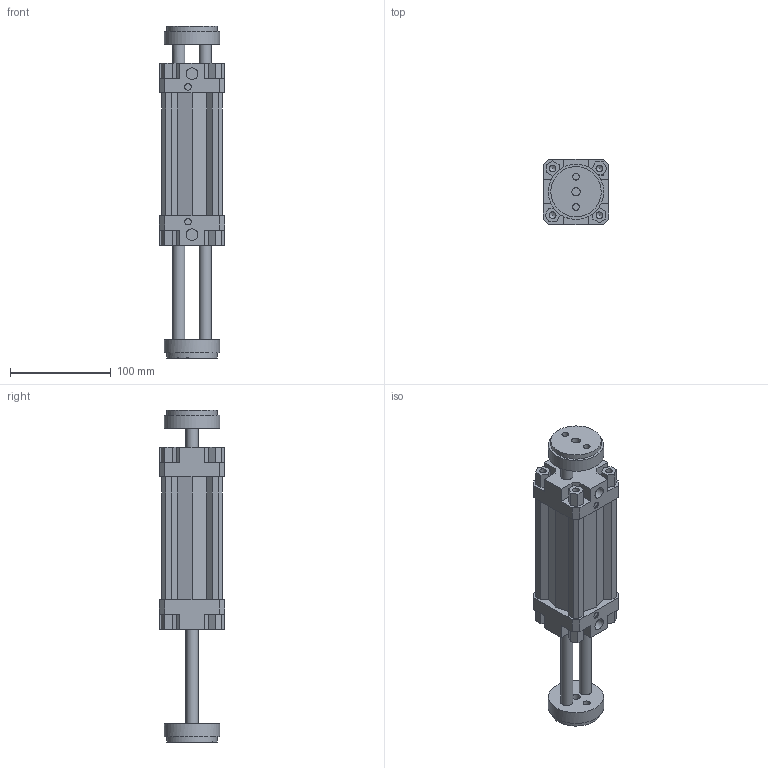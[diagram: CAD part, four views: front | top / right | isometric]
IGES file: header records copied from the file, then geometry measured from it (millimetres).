
Global section: file name: 132#_050_0075_06; native system: Autodesk Inventor 2014; preprocessor: unknown; author: A. Manieri; date: 20161006.155709; units: millimetre
Bounding box: 65 x 65 x 330 mm (x, y, z)
Volume: 553184.7 mm3; surface area: 139386.5 mm2
Topology: 2 solids, 2 shells, 190 faces, 518 edges, 354 vertices
Faces by surface type: bspline 190
